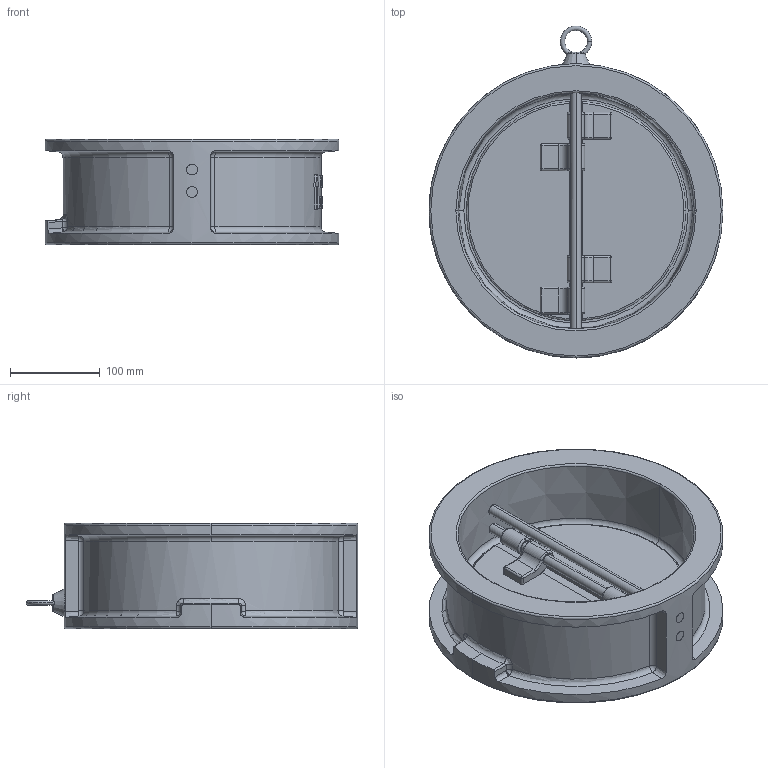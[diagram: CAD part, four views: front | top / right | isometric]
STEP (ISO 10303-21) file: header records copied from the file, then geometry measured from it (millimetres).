
FILE_DESCRIPTION (( 'STEP AP203' ), '1' );
FILE_NAME ('润泽DN250对夹双板止回阀PN16.STEP', '2026-08-19T02:44:56', ( 'Windows 用户' ), ( 'Microsoft' ), 'SwSTEP 2.0', 'SolidWorks 2022', '' );
FILE_SCHEMA (( 'CONFIG_CONTROL_DESIGN' ));
Length unit declared in the file: millimetre
Products named in the file (1): 润泽DN250对夹双板止回阀PN16
Bounding box: 328 x 370.4 x 117.47 mm (x, y, z)
Volume: 2895503.1 mm3; surface area: 447728.9 mm2
Topology: 1 solids, 1 shells, 383 faces, 964 edges, 596 vertices
Faces by surface type: plane 104, bspline 96, cylinder 95, torus 54, cone 18, sphere 16
Entity records: 14889 total; most frequent: CARTESIAN_POINT 6345, ORIENTED_EDGE 1908, DIRECTION 1556, EDGE_CURVE 954, AXIS2_PLACEMENT_3D 608, VERTEX_POINT 596, EDGE_LOOP 420, FACE_OUTER_BOUND 383
